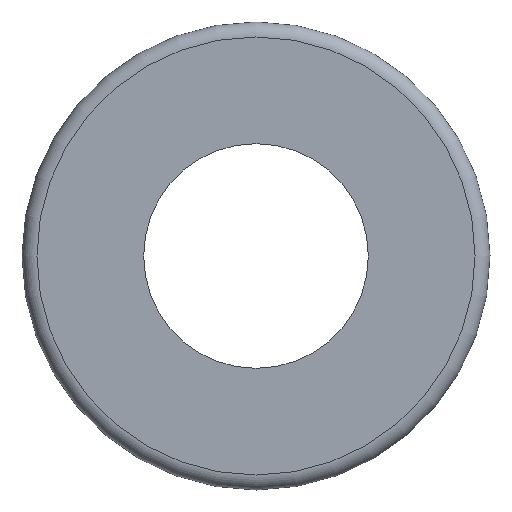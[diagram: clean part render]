
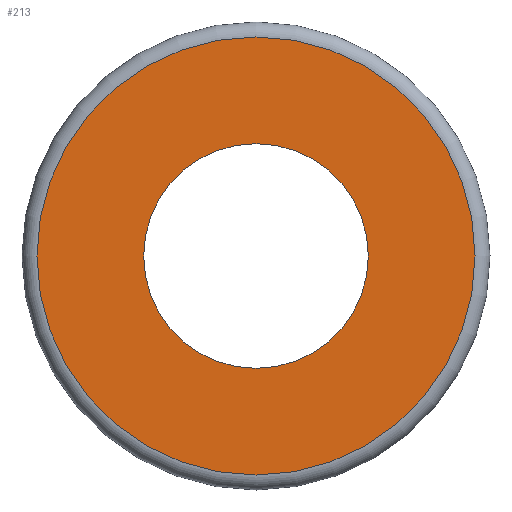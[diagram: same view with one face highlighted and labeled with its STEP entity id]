
A CAD part, left-side view. The second image highlights one B-rep face of the part: STEP entity #213.
In plain terms, the highlighted planar face has unit normal (-1, 0, 0).
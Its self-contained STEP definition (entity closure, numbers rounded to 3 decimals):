
#94 = TOROIDAL_SURFACE('',#95,11.7,0.8);
#95 = AXIS2_PLACEMENT_3D('',#96,#97,#98);
#96 = CARTESIAN_POINT('',(-45.7,2.,112.));
#97 = DIRECTION('',(-1.,0.,0.));
#98 = DIRECTION('',(0.,0.,-1.));
#110 = VERTEX_POINT('',#111);
#111 = CARTESIAN_POINT('',(-46.5,2.,100.3));
#133 = EDGE_CURVE('',#110,#110,#134,.T.);
#134 = SURFACE_CURVE('',#135,(#140,#147),.PCURVE_S1.);
#135 = CIRCLE('',#136,11.7);
#136 = AXIS2_PLACEMENT_3D('',#137,#138,#139);
#137 = CARTESIAN_POINT('',(-46.5,2.,112.));
#138 = DIRECTION('',(1.,-0.,0.));
#139 = DIRECTION('',(0.,0.,-1.));
#140 = PCURVE('',#94,#141);
#141 = DEFINITIONAL_REPRESENTATION('',(#142),#146);
#142 = LINE('',#143,#144);
#143 = CARTESIAN_POINT('',(-0.,1.571));
#144 = VECTOR('',#145,1.);
#145 = DIRECTION('',(-1.,0.));
#146 = ( GEOMETRIC_REPRESENTATION_CONTEXT(2) 
PARAMETRIC_REPRESENTATION_CONTEXT() REPRESENTATION_CONTEXT('2D SPACE',''
  ) );
#147 = PCURVE('',#148,#153);
#148 = PLANE('',#149);
#149 = AXIS2_PLACEMENT_3D('',#150,#151,#152);
#150 = CARTESIAN_POINT('',(-46.5,2.,112.));
#151 = DIRECTION('',(1.,0.,0.));
#152 = DIRECTION('',(0.,0.,-1.));
#153 = DEFINITIONAL_REPRESENTATION('',(#154),#158);
#154 = CIRCLE('',#155,11.7);
#155 = AXIS2_PLACEMENT_2D('',#156,#157);
#156 = CARTESIAN_POINT('',(0.,0.));
#157 = DIRECTION('',(1.,0.));
#158 = ( GEOMETRIC_REPRESENTATION_CONTEXT(2) 
PARAMETRIC_REPRESENTATION_CONTEXT() REPRESENTATION_CONTEXT('2D SPACE',''
  ) );
#213 = ADVANCED_FACE('',(#214,#217),#148,.F.);
#214 = FACE_BOUND('',#215,.F.);
#215 = EDGE_LOOP('',(#216));
#216 = ORIENTED_EDGE('',*,*,#133,.T.);
#217 = FACE_BOUND('',#218,.F.);
#218 = EDGE_LOOP('',(#219));
#219 = ORIENTED_EDGE('',*,*,#220,.F.);
#220 = EDGE_CURVE('',#221,#221,#223,.T.);
#221 = VERTEX_POINT('',#222);
#222 = CARTESIAN_POINT('',(-46.5,2.,106.));
#223 = SURFACE_CURVE('',#224,(#229,#236),.PCURVE_S1.);
#224 = CIRCLE('',#225,6.);
#225 = AXIS2_PLACEMENT_3D('',#226,#227,#228);
#226 = CARTESIAN_POINT('',(-46.5,2.,112.));
#227 = DIRECTION('',(1.,0.,0.));
#228 = DIRECTION('',(0.,0.,-1.));
#229 = PCURVE('',#148,#230);
#230 = DEFINITIONAL_REPRESENTATION('',(#231),#235);
#231 = CIRCLE('',#232,6.);
#232 = AXIS2_PLACEMENT_2D('',#233,#234);
#233 = CARTESIAN_POINT('',(0.,0.));
#234 = DIRECTION('',(1.,0.));
#235 = ( GEOMETRIC_REPRESENTATION_CONTEXT(2) 
PARAMETRIC_REPRESENTATION_CONTEXT() REPRESENTATION_CONTEXT('2D SPACE',''
  ) );
#236 = PCURVE('',#237,#242);
#237 = CYLINDRICAL_SURFACE('',#238,6.);
#238 = AXIS2_PLACEMENT_3D('',#239,#240,#241);
#239 = CARTESIAN_POINT('',(-50.,2.,112.));
#240 = DIRECTION('',(1.,0.,0.));
#241 = DIRECTION('',(0.,0.,-1.));
#242 = DEFINITIONAL_REPRESENTATION('',(#243),#247);
#243 = LINE('',#244,#245);
#244 = CARTESIAN_POINT('',(0.,3.5));
#245 = VECTOR('',#246,1.);
#246 = DIRECTION('',(1.,0.));
#247 = ( GEOMETRIC_REPRESENTATION_CONTEXT(2) 
PARAMETRIC_REPRESENTATION_CONTEXT() REPRESENTATION_CONTEXT('2D SPACE',''
  ) );
